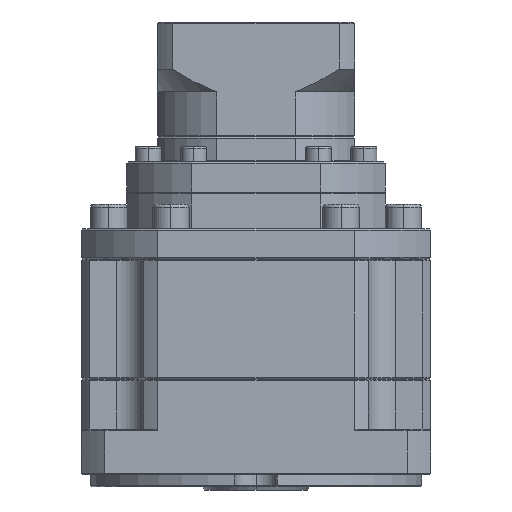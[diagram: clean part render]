
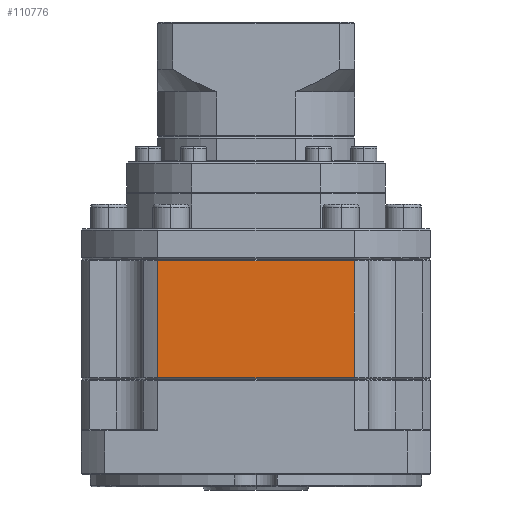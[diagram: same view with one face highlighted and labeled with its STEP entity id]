
A CAD part, front view. The second image highlights one B-rep face of the part: STEP entity #110776.
In plain terms, the highlighted planar face has unit normal (0, -1, 0).
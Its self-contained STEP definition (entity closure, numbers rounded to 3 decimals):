
#2562 = ORIENTED_EDGE ( 'NONE', *, *, #52414, .F. ) ;
#4142 = CARTESIAN_POINT ( 'NONE',  ( -84.602, -36.178, -132.152 ) ) ;
#7813 = CARTESIAN_POINT ( 'NONE',  ( 5.297, -36.178, -132.152 ) ) ;
#8463 = LINE ( 'NONE', #100176, #33357 ) ;
#12232 = VERTEX_POINT ( 'NONE', #88339 ) ;
#21425 = FACE_OUTER_BOUND ( 'NONE', #31643, .T. ) ;
#23100 = DIRECTION ( 'NONE',  ( 0., 0., 1. ) ) ;
#24433 = AXIS2_PLACEMENT_3D ( 'NONE', #91354, #35743, #100691 ) ;
#28690 = VECTOR ( 'NONE', #23100, 1000. ) ;
#31643 = EDGE_LOOP ( 'NONE', ( #111054, #89401, #96453, #2562 ) ) ;
#33357 = VECTOR ( 'NONE', #109943, 1000. ) ;
#35743 = DIRECTION ( 'NONE',  ( 0., 1., 0. ) ) ;
#43190 = VECTOR ( 'NONE', #114535, 1000. ) ;
#43949 = LINE ( 'NONE', #7813, #68666 ) ;
#52414 = EDGE_CURVE ( 'NONE', #116683, #65062, #102812, .T. ) ;
#60133 = CARTESIAN_POINT ( 'NONE',  ( -84.602, -36.178, -93.652 ) ) ;
#63713 = DIRECTION ( 'NONE',  ( -1., 0., 0. ) ) ;
#65062 = VERTEX_POINT ( 'NONE', #60133 ) ;
#66146 = EDGE_CURVE ( 'NONE', #93150, #116683, #43949, .T. ) ;
#68666 = VECTOR ( 'NONE', #63713, 1000. ) ;
#70339 = CARTESIAN_POINT ( 'NONE',  ( -19.803, -36.178, -132.152 ) ) ;
#78359 = CARTESIAN_POINT ( 'NONE',  ( -84.602, -36.178, -93.152 ) ) ;
#88339 = CARTESIAN_POINT ( 'NONE',  ( -19.803, -36.178, -93.652 ) ) ;
#89401 = ORIENTED_EDGE ( 'NONE', *, *, #112508, .F. ) ;
#90949 = PLANE ( 'NONE',  #24433 ) ;
#91354 = CARTESIAN_POINT ( 'NONE',  ( 5.297, -36.178, -93.152 ) ) ;
#92544 = LINE ( 'NONE', #95747, #43190 ) ;
#93150 = VERTEX_POINT ( 'NONE', #70339 ) ;
#95747 = CARTESIAN_POINT ( 'NONE',  ( -19.803, -36.178, -327.478 ) ) ;
#96404 = EDGE_CURVE ( 'NONE', #65062, #12232, #8463, .T. ) ;
#96453 = ORIENTED_EDGE ( 'NONE', *, *, #96404, .F. ) ;
#100176 = CARTESIAN_POINT ( 'NONE',  ( -52.203, -36.178, -93.652 ) ) ;
#100691 = DIRECTION ( 'NONE',  ( -1., 0., 0. ) ) ;
#102812 = LINE ( 'NONE', #78359, #28690 ) ;
#109943 = DIRECTION ( 'NONE',  ( 1., 0., 0. ) ) ;
#110776 = ADVANCED_FACE ( 'NONE', ( #21425 ), #90949, .F. ) ;
#111054 = ORIENTED_EDGE ( 'NONE', *, *, #66146, .F. ) ;
#112508 = EDGE_CURVE ( 'NONE', #12232, #93150, #92544, .T. ) ;
#114535 = DIRECTION ( 'NONE',  ( 0., 0., -1. ) ) ;
#116683 = VERTEX_POINT ( 'NONE', #4142 ) ;
